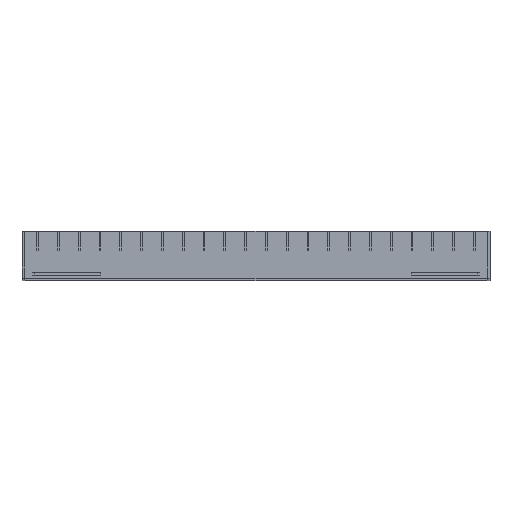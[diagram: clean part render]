
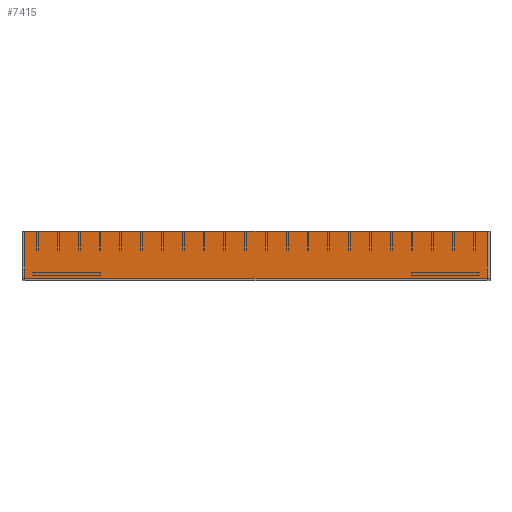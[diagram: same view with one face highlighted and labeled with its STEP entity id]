
A CAD part, top view. The second image highlights one B-rep face of the part: STEP entity #7415.
In plain terms, the highlighted planar face has unit normal (0, 0, 1).
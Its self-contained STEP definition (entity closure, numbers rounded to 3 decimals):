
#35 = DIRECTION ( 'NONE',  ( 0., 0., 1. ) ) ;
#326 = ORIENTED_EDGE ( 'NONE', *, *, #5725, .T. ) ;
#453 = DIRECTION ( 'NONE',  ( -1., 0., 0. ) ) ;
#670 = VECTOR ( 'NONE', #453, 1000. ) ;
#726 = VECTOR ( 'NONE', #4055, 1000. ) ;
#970 = LINE ( 'NONE', #5291, #670 ) ;
#1315 = EDGE_LOOP ( 'NONE', ( #10647, #2838, #326, #10049 ) ) ;
#2638 = CARTESIAN_POINT ( 'NONE',  ( 430.766, 45.593, 3. ) ) ;
#2838 = ORIENTED_EDGE ( 'NONE', *, *, #5470, .T. ) ;
#3242 = EDGE_CURVE ( 'NONE', #8657, #3899, #970, .T. ) ;
#3899 = VERTEX_POINT ( 'NONE', #5155 ) ;
#3933 = VECTOR ( 'NONE', #7798, 1000. ) ;
#4055 = DIRECTION ( 'NONE',  ( 0., -1., 0. ) ) ;
#4516 = CARTESIAN_POINT ( 'NONE',  ( -63.234, -4.407, 3. ) ) ;
#4563 = LINE ( 'NONE', #4516, #9389 ) ;
#4828 = AXIS2_PLACEMENT_3D ( 'NONE', #5843, #35, #6818 ) ;
#4933 = FACE_OUTER_BOUND ( 'NONE', #1315, .T. ) ;
#5155 = CARTESIAN_POINT ( 'NONE',  ( -63.234, 45.593, 3. ) ) ;
#5291 = CARTESIAN_POINT ( 'NONE',  ( -63.234, 45.593, 3. ) ) ;
#5470 = EDGE_CURVE ( 'NONE', #9583, #8510, #4563, .T. ) ;
#5578 = LINE ( 'NONE', #5973, #726 ) ;
#5725 = EDGE_CURVE ( 'NONE', #8510, #8657, #6498, .T. ) ;
#5843 = CARTESIAN_POINT ( 'NONE',  ( -63.234, -4.407, 3. ) ) ;
#5848 = EDGE_CURVE ( 'NONE', #3899, #9583, #5578, .T. ) ;
#5856 = CARTESIAN_POINT ( 'NONE',  ( 430.766, 45.593, 3. ) ) ;
#5973 = CARTESIAN_POINT ( 'NONE',  ( -63.234, 45.593, 3. ) ) ;
#6498 = LINE ( 'NONE', #5856, #3933 ) ;
#6818 = DIRECTION ( 'NONE',  ( 1., 0., 0. ) ) ;
#7415 = ADVANCED_FACE ( 'NONE', ( #4933 ), #9672, .T. ) ;
#7461 = DIRECTION ( 'NONE',  ( 1., 0., 0. ) ) ;
#7798 = DIRECTION ( 'NONE',  ( 0., 1., 0. ) ) ;
#8510 = VERTEX_POINT ( 'NONE', #12098 ) ;
#8657 = VERTEX_POINT ( 'NONE', #2638 ) ;
#9389 = VECTOR ( 'NONE', #7461, 1000. ) ;
#9583 = VERTEX_POINT ( 'NONE', #9661 ) ;
#9661 = CARTESIAN_POINT ( 'NONE',  ( -63.234, -4.407, 3. ) ) ;
#9672 = PLANE ( 'NONE',  #4828 ) ;
#10049 = ORIENTED_EDGE ( 'NONE', *, *, #3242, .T. ) ;
#10647 = ORIENTED_EDGE ( 'NONE', *, *, #5848, .T. ) ;
#12098 = CARTESIAN_POINT ( 'NONE',  ( 430.766, -4.407, 3. ) ) ;
